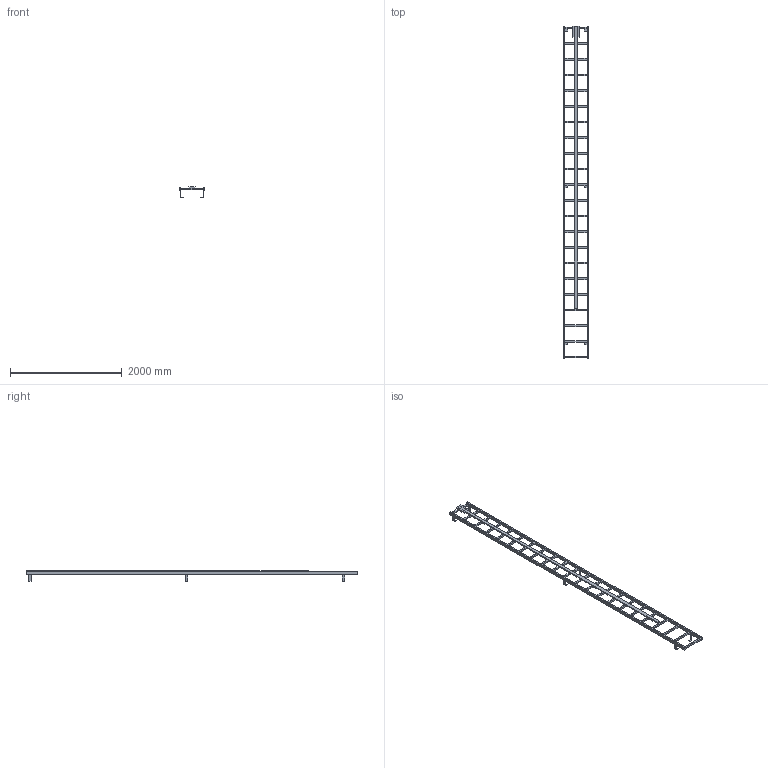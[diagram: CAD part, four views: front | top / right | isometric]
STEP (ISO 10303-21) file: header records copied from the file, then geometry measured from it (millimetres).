
FILE_DESCRIPTION((''),'2;1');
FILE_NAME('017_000109','2017-06-19T',('set'),('HUBER SE'),'PRO/ENGINEER BY PARAMETRIC TECHNOLOGY CORPORATION, 2015280','PRO/ENGINEER BY PARAMETRIC TECHNOLOGY CORPORATION, 2015280','');
FILE_SCHEMA(('CONFIG_CONTROL_DESIGN'));
Length unit declared in the file: millimetre
Products named in the file (1): 017_000109
Bounding box: 450 x 5930 x 195 mm (x, y, z)
Volume: 32051700 mm3; surface area: 3833780 mm2
Topology: 1 solids, 1 shells, 196 faces, 711 edges, 477 vertices
Faces by surface type: plane 196
Entity records: 7420 total; most frequent: CARTESIAN_POINT 1447, ORIENTED_EDGE 1220, DIRECTION 1102, VECTOR 664, LINE 664, EDGE_CURVE 610, VERTEX_POINT 376, EDGE_LOOP 232
